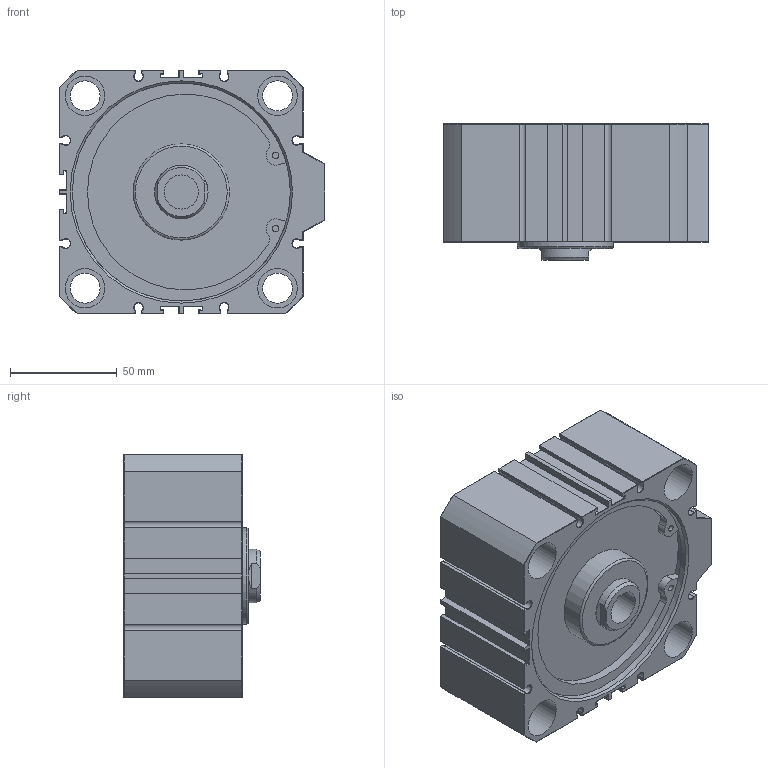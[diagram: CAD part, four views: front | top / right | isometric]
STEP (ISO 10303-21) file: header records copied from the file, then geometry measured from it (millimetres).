
FILE_DESCRIPTION(/* description */ (''),/* implementation_level */ '2;1');
FILE_NAME(/* name */ 'AJC-SD100X10N',/* time_stamp */ '2019-06-14T15:26:49+08:00',/* author */ ('JEFF HUANG'),/* organization */ ('TAIWAN AMAC CLAMP INDUSTRIAL CO., LTD.'),/* preprocessor_version */ 'ST-DEVELOPER v16.7',/* originating_system */ 'DEX',/* authorisation */ $);
FILE_SCHEMA (('AUTOMOTIVE_DESIGN {1 0 10303 214 3 1 1}'));
Length unit declared in the file: millimetre
Products named in the file (1): AJC-SD100X10N
Bounding box: 124 x 63.8 x 114 mm (x, y, z)
Volume: 575785.8 mm3; surface area: 78211.9 mm2
Topology: 1 solids, 1 shells, 367 faces, 832 edges, 455 vertices
Faces by surface type: plane 238, cylinder 65, cone 62, torus 2
Full cylindrical faces by diameter (mm): 3 x4, 14 x4, 15.806 x2, 16 x1, 18.5 x8, 45 x1, 55 x1, 102 x2
Entity records: 12119 total; most frequent: DIRECTION 1652, CARTESIAN_POINT 1648, ORIENTED_EDGE 1536, EDGE_CURVE 768, LINE 580, VECTOR 580, AXIS2_PLACEMENT_3D 536, VERTEX_POINT 452
